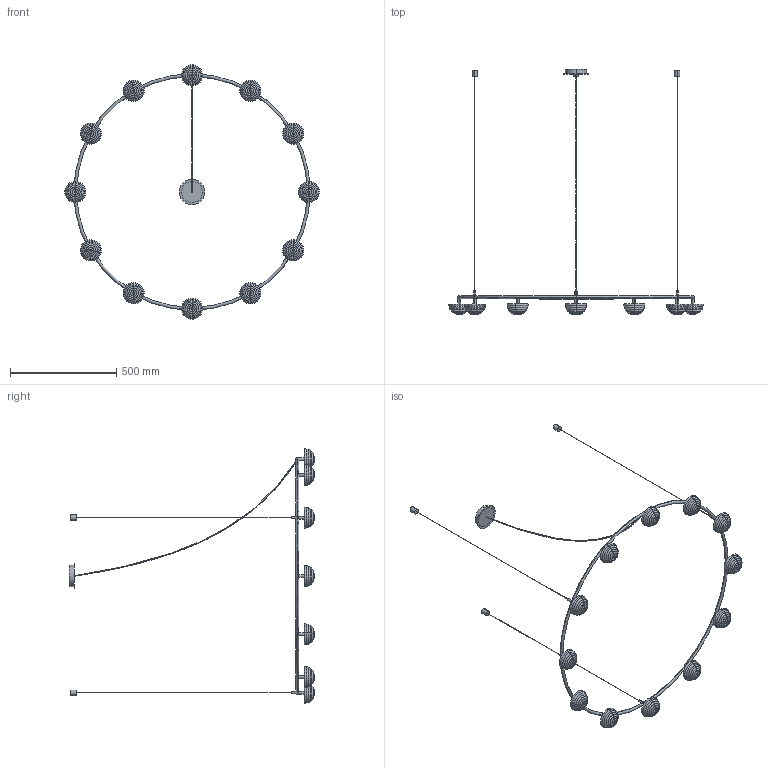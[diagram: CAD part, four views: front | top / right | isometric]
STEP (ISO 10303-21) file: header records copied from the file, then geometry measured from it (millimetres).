
FILE_DESCRIPTION (( 'STEP AP214' ), '1' );
FILE_NAME ('HADO_C1331_12.STEP', '2024-09-18T08:17:04', ( '' ), ( '' ), 'SwSTEP 2.0', 'SolidWorks 2018', '' );
FILE_SCHEMA (( 'AUTOMOTIVE_DESIGN' ));
Length unit declared in the file: millimetre
Products named in the file (1): HADO_C1331_12
Bounding box: 1199.41 x 1157 x 1199.49 mm (x, y, z)
Volume: 3649526 mm3; surface area: 588581.9 mm2
Topology: 24 solids, 24 shells, 409 faces, 814 edges, 488 vertices
Faces by surface type: torus 182, cylinder 118, plane 83, sphere 24, bspline 2
Entity records: 16838 total; most frequent: CARTESIAN_POINT 3140, DIRECTION 2234, ORIENTED_EDGE 1628, AXIS2_PLACEMENT_3D 1058, EDGE_CURVE 814, CIRCLE 650, VERTEX_POINT 488, EDGE_LOOP 446
